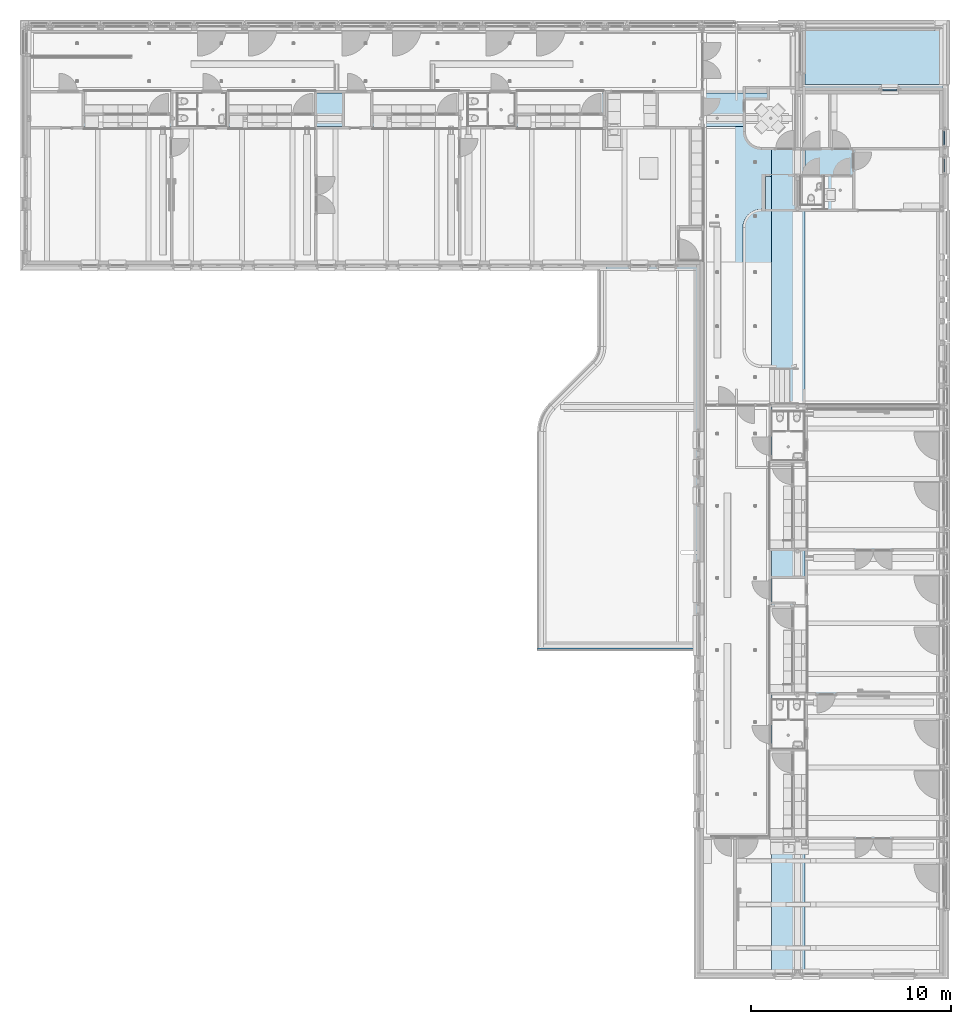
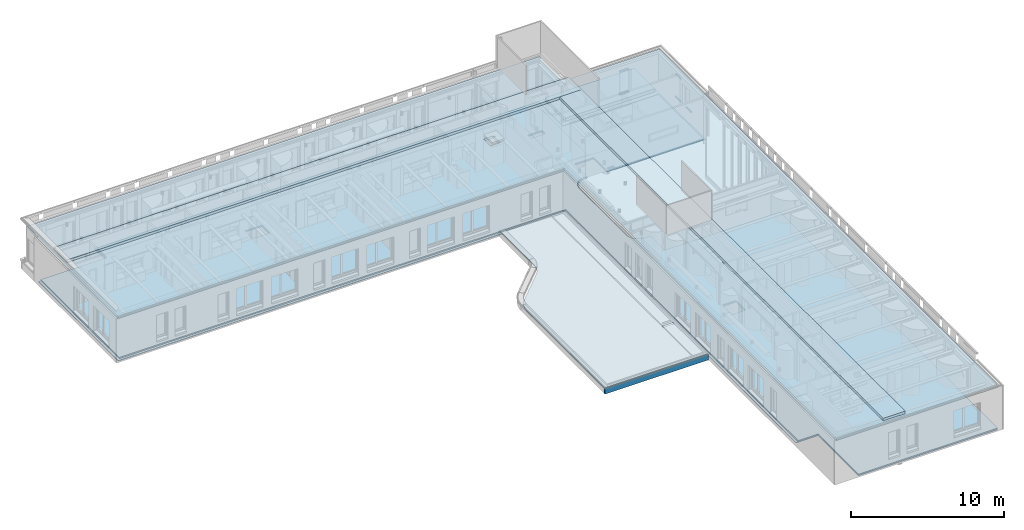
# One storey, part 31 of 128: 6 slabs, 5 members, 1 wall, 13 openings, 6 elements without a shape of their own.
"""IFC2X3 building model written with IfcOpenShell, lengths in millimetres."""

import ifcopenshell
import ifcopenshell.guid

model = None  # the IFC model being written
_history = None  # IfcOwnerHistory: only IFC2X3 demands one
_inside = {}  # id of a spatial element -> (the spatial element, [elements in it])
_under = {}  # id of a project, library or spatial element -> (it, [spatial elements below it])
_declared = {}  # id of a project -> (the project, [libraries it declares])
_typed = {}  # id of a type object -> (the type object, [elements of that type])
_made_of = {}  # id of a material, layer set ... -> (it, [elements and type objects made of it])


def new_model(schema):
    """Start an empty IFC model of exactly this schema.

    Asked for "IFC4X3", IfcOpenShell would pick the latest addendum, in which some entities
    have other attributes; the version numbers below select the first issue.
    IFC2X3 requires an IfcOwnerHistory on every rooted entity: one is made here for all.
    """
    global model, _history
    if schema == "IFC4X3":
        model = ifcopenshell.file(schema_version=(4, 3, 0, 0))
    else:
        model = ifcopenshell.file(schema=schema)
    _inside.clear()
    _under.clear()
    _declared.clear()
    _typed.clear()
    _made_of.clear()
    _history = None
    if model.schema == "IFC2X3":
        org = make("IfcOrganization", Name="unknown")
        user = make(
            "IfcPersonAndOrganization",
            ThePerson=make("IfcPerson", FamilyName="unknown"),
            TheOrganization=org,
        )
        app = make(
            "IfcApplication",
            ApplicationDeveloper=org,
            Version="unknown",
            ApplicationFullName="unknown",
            ApplicationIdentifier="unknown",
        )
        _history = make(
            "IfcOwnerHistory",
            OwningUser=user,
            OwningApplication=app,
            ChangeAction="ADDED",
            CreationDate=0,
        )
    return model


def make(cls, **values):
    """One entity of the class cls with the attributes given. An attribute that is None is left unset."""
    return model.create_entity(
        cls, **{name: value for name, value in values.items() if value is not None}
    )


def entity(cls, *values):
    """Any entity or typed value of the class cls, its attributes in the order of the schema. None: left unset."""
    e = model.create_entity(cls)
    for i, value in enumerate(values):
        if value is not None:
            e[i] = value
    return e


def rooted(cls, **values):
    """An entity with a GlobalId (a new one), such as an element, a storey or a relation."""
    return make(cls, GlobalId=ifcopenshell.guid.new(), OwnerHistory=_history, **values)


def si_unit(unit_type, name, prefix=None):
    """IfcSIUnit, for example si_unit("LENGTHUNIT", "METRE", prefix="MILLI")."""
    return make("IfcSIUnit", UnitType=unit_type, Prefix=prefix, Name=name)


def converted_unit(unit_type, name, factor, base, dimensions=None, offset=None):
    """IfcConversionBasedUnit, such as the inch: factor (a typed value) times the base unit."""
    return make(
        "IfcConversionBasedUnit"
        if offset is None
        else "IfcConversionBasedUnitWithOffset",
        ConversionOffset=offset,
        Dimensions=None
        if dimensions is None
        else entity("IfcDimensionalExponents", *dimensions),
        UnitType=unit_type,
        Name=name,
        ConversionFactor=make(
            "IfcMeasureWithUnit", ValueComponent=factor, UnitComponent=base
        ),
    )


def derived_unit(unit_type, elements):
    """IfcDerivedUnit: a product of units, each with its exponent."""
    return make(
        "IfcDerivedUnit",
        Elements=[
            make("IfcDerivedUnitElement", Unit=unit, Exponent=power)
            for unit, power in elements
        ],
        UnitType=unit_type,
    )


def assignment(units):
    """IfcUnitAssignment: the units of a project."""
    return None if units is None else make("IfcUnitAssignment", Units=units)


def point(xyz):
    """IfcCartesianPoint."""
    return None if xyz is None else make("IfcCartesianPoint", Coordinates=xyz)


def direction(xyz):
    """IfcDirection."""
    return None if xyz is None else make("IfcDirection", DirectionRatios=xyz)


def frame(location, z_axis=None, x_axis=None):
    """IfcAxis2Placement3D, a coordinate frame: its origin and axes. An axis left out is left unset."""
    return make(
        "IfcAxis2Placement3D",
        Location=point(location),
        Axis=direction(z_axis),
        RefDirection=direction(x_axis),
    )


def frame_2d(location, x_axis=None):
    """IfcAxis2Placement2D, a coordinate frame in the plane: its origin and x axis."""
    return make(
        "IfcAxis2Placement2D", Location=point(location), RefDirection=direction(x_axis)
    )


def origin():
    """The frame at (0, 0, 0) with its axes left unset."""
    return frame((0.0, 0.0, 0.0))


def origin_2d_with_axis():
    """The frame at (0, 0) in the plane with the x axis (1, 0) written out."""
    return frame_2d((0.0, 0.0), x_axis=(1.0, 0.0))


def place(relative_to, where):
    """IfcLocalPlacement: puts the frame where relative to a parent placement (None: the world)."""
    return make(
        "IfcLocalPlacement", PlacementRelTo=relative_to, RelativePlacement=where
    )


def context(
    kind, dimensions, precision=None, world=None, true_north=None, identifier=None
):
    """IfcGeometricRepresentationContext, for example the 3D "Model" context."""
    return make(
        "IfcGeometricRepresentationContext",
        ContextIdentifier=identifier,
        ContextType=kind,
        CoordinateSpaceDimension=dimensions,
        Precision=precision,
        WorldCoordinateSystem=world,
        TrueNorth=true_north,
    )


def subcontext(parent, identifier, kind, view, scale=None):
    """IfcGeometricRepresentationSubContext, for example "Body" below "Model"."""
    return make(
        "IfcGeometricRepresentationSubContext",
        ContextIdentifier=identifier,
        ContextType=kind,
        ParentContext=parent,
        TargetScale=scale,
        TargetView=view,
    )


def project(units=None, contexts=None):
    """IfcProject with its units and contexts."""
    return rooted(
        "IfcProject",
        Name="project",
        RepresentationContexts=contexts,
        UnitsInContext=assignment(units),
    )


def spatial(cls, under=None, at=None, **own):
    """A site, building, storey or space (cls), placed at a placement, below another one or the project."""
    s = rooted(cls, ObjectPlacement=at, **own)
    if under is not None:
        _under.setdefault(under.id(), (under, []))[1].append(s)
    return s


def polyline(points):
    """IfcPolyline through the points."""
    return make("IfcPolyline", Points=[point(p) for p in points])


def circle_curve(where, radius):
    """IfcCircle in the frame where."""
    return make("IfcCircle", Position=where, Radius=radius)


def parameter(value):
    """IfcParameterValue: where a trimmed curve begins or ends, as a parameter of its basis curve."""
    return model.create_entity("IfcParameterValue", value)


def trimmed(basis, trim1, trim2, sense, master):
    """IfcTrimmedCurve: the piece of a basis curve between two trims."""
    return make(
        "IfcTrimmedCurve",
        BasisCurve=basis,
        Trim1=trim1,
        Trim2=trim2,
        SenseAgreement=sense,
        MasterRepresentation=master,
    )


def segment(curve, same_sense, transition):
    """IfcCompositeCurveSegment."""
    return make(
        "IfcCompositeCurveSegment",
        Transition=transition,
        SameSense=same_sense,
        ParentCurve=curve,
    )


def composite_curve(segments, self_intersect=None):
    """IfcCompositeCurve: segments joined end to end."""
    return make("IfcCompositeCurve", Segments=segments, SelfIntersect=self_intersect)


def profile(cls, at=None, kind="AREA", **sizes):
    """A parametric profile (cls). Its sizes go by their IFC names, for example OverallWidth=200.0."""
    return make(cls, ProfileType=kind, Position=at, **sizes)


def rectangle(**sizes):
    """IfcRectangleProfileDef."""
    return profile("IfcRectangleProfileDef", **sizes)


def outline(outer, holes=None, kind="AREA"):
    """IfcArbitraryClosedProfileDef: a profile drawn as a closed curve; with holes, ...WithVoids."""
    if holes is None:
        return make("IfcArbitraryClosedProfileDef", ProfileType=kind, OuterCurve=outer)
    return make(
        "IfcArbitraryProfileDefWithVoids",
        ProfileType=kind,
        OuterCurve=outer,
        InnerCurves=holes,
    )


def extrude(swept, where, along, depth):
    """IfcExtrudedAreaSolid: the profile swept, set in the frame where, extruded along a direction by depth."""
    return make(
        "IfcExtrudedAreaSolid",
        SweptArea=swept,
        Position=where,
        ExtrudedDirection=direction(along),
        Depth=depth,
    )


def shape(context_of_items, identifier, shape_type, items):
    """IfcShapeRepresentation: the items that make up one representation, for example the "Body"."""
    return make(
        "IfcShapeRepresentation",
        ContextOfItems=context_of_items,
        RepresentationIdentifier=identifier,
        RepresentationType=shape_type,
        Items=items,
    )


def source(mapping_origin, context_of_items, identifier, shape_type, items):
    """IfcRepresentationMap: a shape defined once, which mapped items show again and again."""
    return make(
        "IfcRepresentationMap",
        MappingOrigin=mapping_origin,
        MappedRepresentation=shape(context_of_items, identifier, shape_type, items),
    )


def transform(
    local_origin,
    x_axis=None,
    y_axis=None,
    z_axis=None,
    scale=None,
    scale2=None,
    scale3=None,
    uniform=True,
):
    """IfcCartesianTransformationOperator3D, or its non-uniform kind. x_axis, y_axis, z_axis: its Axis1, 2, 3."""
    if uniform:
        return make(
            "IfcCartesianTransformationOperator3D",
            Axis1=direction(x_axis),
            Axis2=direction(y_axis),
            LocalOrigin=point(local_origin),
            Scale=scale,
            Axis3=direction(z_axis),
        )
    return make(
        "IfcCartesianTransformationOperator3DnonUniform",
        Axis1=direction(x_axis),
        Axis2=direction(y_axis),
        LocalOrigin=point(local_origin),
        Scale=scale,
        Axis3=direction(z_axis),
        Scale2=scale2,
        Scale3=scale3,
    )


def mapped(mapping_source, mapping_target):
    """IfcMappedItem: shows the shape of a source again, moved by a transform."""
    return make(
        "IfcMappedItem", MappingSource=mapping_source, MappingTarget=mapping_target
    )


def material(Name=None, Category=None):
    """IfcMaterial."""
    return make("IfcMaterial", Name=Name, Category=Category)


def layer(
    of_material, thickness, ventilated=None, Name=None, Category=None, Priority=None
):
    """IfcMaterialLayer: one layer of a wall or slab, of a material (None: an air gap)."""
    return make(
        "IfcMaterialLayer",
        Material=of_material,
        LayerThickness=thickness,
        IsVentilated=ventilated,
        Name=Name,
        Category=Category,
        Priority=Priority,
    )


def layer_set(layers, Name=None):
    """IfcMaterialLayerSet."""
    return make("IfcMaterialLayerSet", MaterialLayers=layers, LayerSetName=Name)


def layer_usage(for_layer_set, set_direction, sense, offset, extent=None):
    """IfcMaterialLayerSetUsage: how a layer set lies in its element."""
    return make(
        "IfcMaterialLayerSetUsage",
        ForLayerSet=for_layer_set,
        LayerSetDirection=set_direction,
        DirectionSense=sense,
        OffsetFromReferenceLine=offset,
        ReferenceExtent=extent,
    )


def made_of(thing, what):
    """Note that an element or type object is made of a material, layer set ...; save() writes the relation."""
    if what is not None:
        _made_of.setdefault(what.id(), (what, []))[1].append(thing)
    return thing


def type_object(cls, material=None, **own):
    """A type object (cls), such as IfcWallType, which elements share."""
    return made_of(rooted(cls, **own), material)


def type_shapes(of_type, sources):
    """Give a type object the sources (RepresentationMaps) that its elements show as mapped items."""
    of_type.RepresentationMaps = sources


def element(
    cls,
    number,
    at=None,
    inside=None,
    cuts=None,
    type_object=None,
    material=None,
    context=None,
    identifier="Body",
    shape_type=None,
    held_by="IfcProductDefinitionShape",
    body=None,
    shapes=None,
    **own,
):
    """One element of the class cls, such as IfcWall. Its Tag is "e" and its number.

    at: its placement. inside: the storey or other place that contains it. cuts: it is an
    opening in that element (IfcRelVoidsElement). A single representation is given by context,
    identifier, shape_type and body (its items); several are given by shapes. held_by: the class
    of the entity that holds the representations. save() writes the other relations.
    """
    e = rooted(cls, Tag="e%d" % number, ObjectPlacement=at, **own)
    if body is not None:
        shapes = [shape(context, identifier, shape_type, body)]
    if shapes is not None:
        e.Representation = make(held_by, Representations=shapes)
    if inside is not None:
        _inside.setdefault(inside.id(), (inside, []))[1].append(e)
    if cuts is not None:
        rooted(
            "IfcRelVoidsElement", RelatingBuildingElement=cuts, RelatedOpeningElement=e
        )
    if type_object is not None:
        _typed.setdefault(type_object.id(), (type_object, []))[1].append(e)
    return made_of(e, material)


def aggregate(whole, parts):
    """IfcRelAggregates: a whole, such as a stair, and the parts it consists of."""
    return rooted("IfcRelAggregates", RelatingObject=whole, RelatedObjects=parts)


def save(model, path):
    """Write the relations noted so far, then the file.

    IfcRelAggregates (storeys below a building ...), IfcRelContainedInSpatialStructure (elements
    in a storey), IfcRelDefinesByType, IfcRelAssociatesMaterial and IfcRelDeclares: one each for
    every whole, place, type object, material and project.
    """
    for whole, parts in _under.values():
        aggregate(whole, parts)
    for where, things in _inside.values():
        rooted(
            "IfcRelContainedInSpatialStructure",
            RelatedElements=things,
            RelatingStructure=where,
        )
    for kind, things in _typed.values():
        rooted("IfcRelDefinesByType", RelatedObjects=things, RelatingType=kind)
    for what, things in _made_of.values():
        rooted("IfcRelAssociatesMaterial", RelatedObjects=things, RelatingMaterial=what)
    for by, libraries in _declared.values():
        rooted("IfcRelDeclares", RelatingContext=by, RelatedDefinitions=libraries)
    model.write(path)


model = new_model("IFC2X3")

# Units and contexts
model_context = context("Model", 3, precision=0.01, world=origin(), true_north=direction((6.123031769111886e-17, 1.0)))
body_context = subcontext(model_context, "Body", "Model", "MODEL_VIEW")
ifc_project = project(units=[si_unit("LENGTHUNIT", "METRE", prefix="MILLI"), si_unit("AREAUNIT", "SQUARE_METRE"), si_unit("VOLUMEUNIT", "CUBIC_METRE"), converted_unit("PLANEANGLEUNIT", "DEGREE", entity("IfcRatioMeasure", 0.017453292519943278), si_unit("PLANEANGLEUNIT", "RADIAN"), dimensions=[0, 0, 0, 0, 0, 0, 0]), si_unit("MASSUNIT", "GRAM", prefix="KILO"), derived_unit("MASSDENSITYUNIT", [(si_unit("MASSUNIT", "GRAM", prefix="KILO"), 1), (si_unit("LENGTHUNIT", "METRE"), -3)]), derived_unit("IONCONCENTRATIONUNIT", [(si_unit("MASSUNIT", "GRAM", prefix="KILO"), 1), (si_unit("LENGTHUNIT", "METRE"), -3)]), derived_unit("MOMENTOFINERTIAUNIT", [(si_unit("LENGTHUNIT", "METRE"), 4)]), si_unit("TIMEUNIT", "SECOND"), si_unit("FREQUENCYUNIT", "HERTZ"), si_unit("THERMODYNAMICTEMPERATUREUNIT", "DEGREE_CELSIUS"), derived_unit("THERMALTRANSMITTANCEUNIT", [(si_unit("MASSUNIT", "GRAM", prefix="KILO"), 1), (si_unit("THERMODYNAMICTEMPERATUREUNIT", "KELVIN"), -1), (si_unit("TIMEUNIT", "SECOND"), -3)]), derived_unit("THERMALCONDUCTANCEUNIT", [(si_unit("MASSUNIT", "GRAM", prefix="KILO"), 1), (si_unit("THERMODYNAMICTEMPERATUREUNIT", "KELVIN"), -1), (si_unit("TIMEUNIT", "SECOND"), -3), (si_unit("LENGTHUNIT", "METRE"), 1)]), derived_unit("VOLUMETRICFLOWRATEUNIT", [(si_unit("LENGTHUNIT", "METRE"), 3), (si_unit("TIMEUNIT", "SECOND"), -1)]), derived_unit("MASSFLOWRATEUNIT", [(si_unit("MASSUNIT", "GRAM", prefix="KILO"), 1), (si_unit("TIMEUNIT", "SECOND"), -1)]), derived_unit("ROTATIONALFREQUENCYUNIT", [(si_unit("TIMEUNIT", "SECOND"), -1)]), si_unit("ELECTRICCURRENTUNIT", "AMPERE"), si_unit("ELECTRICVOLTAGEUNIT", "VOLT"), si_unit("POWERUNIT", "WATT"), si_unit("FORCEUNIT", "NEWTON", prefix="KILO"), si_unit("ILLUMINANCEUNIT", "LUX"), si_unit("LUMINOUSFLUXUNIT", "LUMEN"), si_unit("LUMINOUSINTENSITYUNIT", "CANDELA"), derived_unit("USERDEFINED", [(si_unit("MASSUNIT", "GRAM", prefix="KILO"), -1), (si_unit("LENGTHUNIT", "METRE"), -2), (si_unit("TIMEUNIT", "SECOND"), 3), (si_unit("LUMINOUSFLUXUNIT", "LUMEN"), 1)]), derived_unit("USERDEFINED", [(si_unit("MASSUNIT", "GRAM", prefix="KILO"), 1), (si_unit("TIMEUNIT", "SECOND"), -3), (si_unit("LENGTHUNIT", "METRE"), 3), (si_unit("ELECTRICCURRENTUNIT", "AMPERE"), -2)]), derived_unit("SOUNDPOWERUNIT", [(si_unit("MASSUNIT", "GRAM", prefix="KILO"), 1), (si_unit("TIMEUNIT", "SECOND"), -3), (si_unit("LENGTHUNIT", "METRE"), 2)]), derived_unit("SOUNDPRESSUREUNIT", [(si_unit("MASSUNIT", "GRAM", prefix="KILO"), 1), (si_unit("LENGTHUNIT", "METRE"), -1), (si_unit("TIMEUNIT", "SECOND"), -2)]), derived_unit("LINEARVELOCITYUNIT", [(si_unit("LENGTHUNIT", "METRE"), 1), (si_unit("TIMEUNIT", "SECOND"), -1)]), si_unit("PRESSUREUNIT", "PASCAL"), derived_unit("USERDEFINED", [(si_unit("MASSUNIT", "GRAM", prefix="KILO"), 1), (si_unit("LENGTHUNIT", "METRE"), -2), (si_unit("TIMEUNIT", "SECOND"), -2)]), derived_unit("LINEARFORCEUNIT", [(si_unit("MASSUNIT", "GRAM", prefix="KILO"), 1), (si_unit("TIMEUNIT", "SECOND"), -2)]), derived_unit("PLANARFORCEUNIT", [(si_unit("MASSUNIT", "GRAM", prefix="KILO"), 1), (si_unit("LENGTHUNIT", "METRE"), -1), (si_unit("TIMEUNIT", "SECOND"), -2)]), derived_unit("SPECIFICHEATCAPACITYUNIT", [(si_unit("THERMODYNAMICTEMPERATUREUNIT", "KELVIN"), -1), (si_unit("LENGTHUNIT", "METRE"), 2), (si_unit("TIMEUNIT", "SECOND"), -2)]), derived_unit("HEATINGVALUEUNIT", [(si_unit("LENGTHUNIT", "METRE"), 2), (si_unit("TIMEUNIT", "SECOND"), -2)]), derived_unit("VAPORPERMEABILITYUNIT", [(si_unit("LENGTHUNIT", "METRE"), -1), (si_unit("TIMEUNIT", "SECOND"), 1)]), derived_unit("DYNAMICVISCOSITYUNIT", [(si_unit("MASSUNIT", "GRAM", prefix="KILO"), 1), (si_unit("TIMEUNIT", "SECOND"), -1), (si_unit("LENGTHUNIT", "METRE"), -1)]), derived_unit("THERMALEXPANSIONCOEFFICIENTUNIT", [(si_unit("THERMODYNAMICTEMPERATUREUNIT", "KELVIN"), -1)]), derived_unit("MODULUSOFELASTICITYUNIT", [(si_unit("MASSUNIT", "GRAM", prefix="KILO"), 1), (si_unit("LENGTHUNIT", "METRE"), -1), (si_unit("TIMEUNIT", "SECOND"), -2)]), derived_unit("ISOTHERMALMOISTURECAPACITYUNIT", [(si_unit("LENGTHUNIT", "METRE"), 3), (si_unit("MASSUNIT", "GRAM", prefix="KILO"), -1)]), derived_unit("MOISTUREDIFFUSIVITYUNIT", [(si_unit("TIMEUNIT", "SECOND"), -1), (si_unit("LENGTHUNIT", "METRE"), 2)])], contexts=[model_context])

# Site, building, storey
site_placement = place(None, frame((0.0, 300.0, 0.0)))
site = spatial("IfcSite", under=ifc_project, at=site_placement, Name="<Kadastrale nummers>", CompositionType="ELEMENT")
building_placement = place(site_placement, origin())
building = spatial("IfcBuilding", under=site, at=building_placement, CompositionType="ELEMENT")
storey_placement = place(building_placement, frame((0.0, 0.0, 3560.0000331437)))
storey = spatial("IfcBuildingStorey", under=building, at=storey_placement, Name="01 eerste verdieping", CompositionType="ELEMENT", Elevation=3560.0000331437)

# Curtain wall, member
curtain_wall_type = type_object("IfcCurtainWallType", Name="Curtain Wall:K_31", PredefinedType="NOTDEFINED")
curtain_wall_1_placement = place(storey_placement, frame((0.0, 0.0, -3560.0000331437)))
curtain_wall_1 = element("IfcCurtainWall", 1, at=curtain_wall_1_placement, inside=storey, type_object=curtain_wall_type, Name="Curtain Wall:K_31", ObjectType="Curtain Wall:K_31")
ifc_material_1 = material(Name="ISR_Kunststof_RAL7006")
member_type_1 = type_object("IfcMemberType", Name="Rectangular Mullion:100x83 Gealan Kubus", PredefinedType="MULLION", material=ifc_material_1)
shared_shape_1 = source(origin(), body_context, "Body", "SweptSolid", [
    extrude(rectangle(XDim=83.00000000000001, YDim=100.0, at=origin_2d_with_axis()), frame((-50.0, 41.50000000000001, -680.0), z_axis=(0.0, 0.0, 1.0), x_axis=(0.0, -1.0, 0.0)), (0.0, 0.0, 1.0), 679.9999999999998),
])
type_shapes(member_type_1, [shared_shape_1])
member_1_placement = place(curtain_wall_1_placement, frame((45670.0, 46693.0, 6390.00003501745), z_axis=(-1.0, 0.0, 0.0), x_axis=(0.0, 0.0, 1.0)))
member_1 = element("IfcMember", 2, at=member_1_placement, type_object=member_type_1, material=ifc_material_1, Name="Rectangular Mullion:100x83 Gealan Kubus", ObjectType="Rectangular Mullion:100x83 Gealan Kubus", context=body_context, shape_type="MappedRepresentation", body=[
    mapped(shared_shape_1, transform((0.0, 0.0, 0.0), scale=1.0)),
])

curtain_wall_2_placement = place(storey_placement, frame((0.0, 0.0, -3560.0000331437)))
curtain_wall_2 = element("IfcCurtainWall", 3, at=curtain_wall_2_placement, inside=storey, type_object=curtain_wall_type, Name="Curtain Wall:K_31", ObjectType="Curtain Wall:K_31")
member_2_placement = place(curtain_wall_2_placement, frame((48668.0, 44672.12500266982, 6390.00003501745), z_axis=(0.0, 1.0, 0.0), x_axis=(0.0, 0.0, 1.0)))
member_2 = element("IfcMember", 4, at=member_2_placement, type_object=member_type_1, material=ifc_material_1, Name="Rectangular Mullion:100x83 Gealan Kubus", ObjectType="Rectangular Mullion:100x83 Gealan Kubus", context=body_context, shape_type="MappedRepresentation", body=[
    mapped(shared_shape_1, transform((0.0, 0.0, 0.0), scale=1.0)),
])

# Member
member_type_2 = type_object("IfcMemberType", Name="Rectangular Mullion:120x83 Gealan Kubus", PredefinedType="MULLION", material=ifc_material_1)
shared_shape_2 = source(origin(), body_context, "Body", "SweptSolid", [
    extrude(rectangle(XDim=83.00000000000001, YDim=120.0, at=origin_2d_with_axis()), frame((-60.0, 41.50000000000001, -680.0), z_axis=(0.0, 0.0, 1.0), x_axis=(0.0, -1.0, 0.0)), (0.0, 0.0, 1.0), 679.9999999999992),
])
type_shapes(member_type_2, [shared_shape_2])
member_3_placement = place(curtain_wall_1_placement, frame((46350.0, 46693.0, 4460.000035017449), z_axis=(1.0, 0.0, 0.0), x_axis=(0.0, 0.0, -1.0)))
member_3 = element("IfcMember", 5, at=member_3_placement, type_object=member_type_2, material=ifc_material_1, Name="Rectangular Mullion:120x83 Gealan Kubus", ObjectType="Rectangular Mullion:120x83 Gealan Kubus", context=body_context, shape_type="MappedRepresentation", body=[
    mapped(shared_shape_2, transform((0.0, 0.0, 0.0), scale=1.0)),
])

aggregate(curtain_wall_1, [member_1, member_3])

# Curtain wall, member
curtain_wall_3_placement = place(storey_placement, frame((0.0, 0.0, -3560.0000331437)))
curtain_wall_3 = element("IfcCurtainWall", 6, at=curtain_wall_3_placement, inside=storey, type_object=curtain_wall_type, Name="Curtain Wall:K_31", ObjectType="Curtain Wall:K_31")
member_4_placement = place(curtain_wall_3_placement, frame((48668.0, 42612.12500266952, 4460.000035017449), z_axis=(0.0, -1.0, 0.0), x_axis=(0.0, 0.0, -1.0)))
member_4 = element("IfcMember", 7, at=member_4_placement, type_object=member_type_2, material=ifc_material_1, Name="Rectangular Mullion:120x83 Gealan Kubus", ObjectType="Rectangular Mullion:120x83 Gealan Kubus", context=body_context, shape_type="MappedRepresentation", body=[
    mapped(shared_shape_2, transform((0.0, 0.0, 0.0), scale=1.0)),
])
aggregate(curtain_wall_3, [member_4])

# Member
member_5_placement = place(curtain_wall_2_placement, frame((48668.0, 43992.12500266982, 4460.000035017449), z_axis=(0.0, -1.0, 0.0), x_axis=(0.0, 0.0, -1.0)))
member_5 = element("IfcMember", 8, at=member_5_placement, type_object=member_type_2, material=ifc_material_1, Name="Rectangular Mullion:120x83 Gealan Kubus", ObjectType="Rectangular Mullion:120x83 Gealan Kubus", context=body_context, shape_type="MappedRepresentation", body=[
    mapped(shared_shape_2, transform((0.0, 0.0, 0.0), scale=1.0)),
])

aggregate(curtain_wall_2, [member_2, member_5])

# Slab, openings
ifc_material_2 = material(Name="ISR_Beton ihwg")
ifc_layer_1 = layer(ifc_material_2, 60.0)
ifc_layer_set_1 = layer_set([ifc_layer_1], Name="Floor:23_Gewapende Druklaag")
ifc_layer_usage_1 = layer_usage(ifc_layer_set_1, "AXIS3", "POSITIVE", 0.0)
slab_type_1 = type_object("IfcSlabType", Name="Floor:23_Gewapende Druklaag", PredefinedType="FLOOR", material=ifc_layer_set_1)
slab_1_placement = place(storey_placement, frame((2925.0, 2625.0, -60.0)))
slab_1 = element("IfcSlab", 9, at=slab_1_placement, inside=storey, type_object=slab_type_1, material=ifc_layer_usage_1, Name="Floor:23_Gewapende Druklaag", ObjectType="Floor:23_Gewapende Druklaag", PredefinedType="FLOOR", context=body_context, shape_type="SweptSolid", body=[
    extrude(outline(composite_curve([segment(polyline([(22875.0, 11775.0), (22875.0, 22180.0)]), True, "CONTINUOUS"), segment(polyline([(22875.0, 22180.0), (17835.0, 22180.0)]), True, "CONTINUOUS"), segment(polyline([(17835.0, 22180.0), (17835.0, 23625.0)]), True, "CONTINUOUS"), segment(polyline([(17835.0, 23625.0), (-22875.0, 23625.0)]), True, "CONTINUOUS"), segment(polyline([(-22875.0, 23625.0), (-22875.0, 14444.999474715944)]), True, "CONTINUOUS"), segment(polyline([(-22875.0, 14444.999474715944), (-15450.0, 14444.999474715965)]), True, "CONTINUOUS"), segment(polyline([(-15450.0, 14444.999474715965), (-15450.0, 16167.125002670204)]), True, "CONTINUOUS"), segment(polyline([(-15450.0, 16167.125002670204), (-14013.999785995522, 16167.125002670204)]), True, "CONTINUOUS"), segment(polyline([(-14013.999785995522, 16167.125002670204), (-14013.999785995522, 14524.999474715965)]), True, "CONTINUOUS"), segment(polyline([(-14013.999785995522, 14524.999474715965), (-13900.0, 14524.999474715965)]), True, "CONTINUOUS"), segment(trimmed(circle_curve(frame_2d((-13900.0, 13599.999474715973), x_axis=(-1.0, 0.0)), 925.0000000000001), [parameter(179.99999999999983)], [parameter(269.9999999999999)], True, "PARAMETER"), False, "CONTINUOUS"), segment(polyline([(-12975.0, 13599.999474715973), (-12975.0, 7545.0)]), True, "CONTINUOUS"), segment(trimmed(circle_curve(frame_2d((-13800.0, 7545.0), x_axis=(-1.0, 0.0)), 825.0), [parameter(89.99999999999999)], [parameter(180.00000000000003)], True, "PARAMETER"), False, "CONTINUOUS"), segment(polyline([(-13800.0, 6720.0), (-14200.0, 6720.0)]), True, "CONTINUOUS"), segment(polyline([(-14200.0, 6720.0), (-14200.0, 4760.0)]), True, "CONTINUOUS"), segment(polyline([(-14200.0, 4760.0), (-22875.0, 4760.0)]), True, "CONTINUOUS"), segment(polyline([(-22875.0, 4760.0), (-22875.0, -23625.0)]), True, "CONTINUOUS"), segment(polyline([(-22875.0, -23625.0), (-12400.0, -23625.0)]), True, "CONTINUOUS"), segment(polyline([(-12400.0, -23625.0), (-12400.0, -18360.001376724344)]), True, "CONTINUOUS"), segment(polyline([(-12400.0, -18360.001376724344), (-10725.0, -18360.001376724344)]), True, "CONTINUOUS"), segment(polyline([(-10725.0, -18360.001376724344), (-10725.0, -6865.001376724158)]), True, "CONTINUOUS"), segment(polyline([(-10725.0, -6865.001376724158), (-9375.0, -6865.001376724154)]), True, "CONTINUOUS"), segment(polyline([(-9375.0, -6865.001376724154), (-9375.0, -7195.001376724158)]), True, "CONTINUOUS"), segment(polyline([(-9375.0, -7195.001376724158), (-3034.0369167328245, -7195.001376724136)]), True, "CONTINUOUS"), segment(polyline([(-3034.0369167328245, -7195.001376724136), (-3034.0369167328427, 3419.262481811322)]), True, "CONTINUOUS"), segment(trimmed(circle_curve(frame_2d((-4600.036916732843, 3419.262481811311), x_axis=(-1.0, 0.0)), 1566.0000000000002), [parameter(179.99999999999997)], [parameter(225.00000000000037)], True, "PARAMETER"), True, "CONTINUOUS"), segment(polyline([(-3492.707697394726, 4526.5917011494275), (-5614.028040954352, 6647.912044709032)]), True, "CONTINUOUS"), segment(trimmed(circle_curve(frame_2d((-4600.03691673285, 7661.903168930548), x_axis=(-1.0, 0.0)), 1434.0), [parameter(0.0)], [parameter(45.0000000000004)], True, "PARAMETER"), False, "CONTINUOUS"), segment(polyline([(-6034.03691673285, 7661.903168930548), (-6034.03691673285, 11775.0)]), True, "CONTINUOUS"), segment(polyline([(-6034.03691673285, 11775.0), (22875.0, 11775.0)]), True, "CONTINUOUS")], self_intersect=False)), frame((22875.0, 23625.0, 60.0), z_axis=(0.0, 0.0, -1.0), x_axis=(-1.0, 0.0, 0.0)), (0.0, 0.0, 1.0), 59.99999999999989),
])
opening_1_placement = place(slab_1_placement, origin())
element("IfcOpeningElement", 10, at=opening_1_placement, cuts=slab_1, Name="Floor:23_Gewapende Druklaag", ObjectType="Opening", context=body_context, shape_type="SweptSolid", body=[
    extrude(rectangle(XDim=1025.0000000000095, YDim=1260.0000000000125, at=frame_2d((0.0, 2.1600499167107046e-12), x_axis=(1.0, 0.0))), frame((15110.0, 43437.50000000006, 0.0), z_axis=(0.0, 0.0, 1.0), x_axis=(0.0, 1.0, 0.0)), (0.0, 0.0, 1.0), 59.99999999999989),
])
opening_2_placement = place(slab_1_placement, origin())
element("IfcOpeningElement", 11, at=opening_2_placement, cuts=slab_1, Name="Floor:23_Gewapende Druklaag", ObjectType="Opening", context=body_context, shape_type="SweptSolid", body=[
    extrude(rectangle(XDim=1260.001376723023, YDim=1035.0066017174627, at=origin_2d_with_axis()), frame((37707.49669914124, 20454.997934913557, 0.0), z_axis=(0.0, 0.0, 1.0), x_axis=(0.0, 1.0, 0.0)), (0.0, 0.0, 1.0), 59.99999999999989),
])
opening_3_placement = place(slab_1_placement, origin())
element("IfcOpeningElement", 12, at=opening_3_placement, cuts=slab_1, Name="Floor:23_Gewapende Druklaag", ObjectType="Opening", context=body_context, shape_type="SweptSolid", body=[
    extrude(rectangle(XDim=415.00000000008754, YDim=1075.0000000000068, at=frame_2d((-4.334310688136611e-12, 4.320099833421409e-12), x_axis=(1.0, 0.0))), frame((36412.500000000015, 43942.49999999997, 0.0), z_axis=(0.0, 0.0, 1.0), x_axis=(0.0, 1.0, 0.0)), (0.0, 0.0, 1.0), 59.99999999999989),
])
opening_4_placement = place(slab_1_placement, origin())
element("IfcOpeningElement", 13, at=opening_4_placement, cuts=slab_1, Name="Floor:23_Gewapende Druklaag", ObjectType="Opening", context=body_context, shape_type="SweptSolid", body=[
    extrude(outline(polyline([(-210.0, -9.999649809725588), (-210.0, -95.00017509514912), (315.0, -95.00017509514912), (315.0, 104.99982490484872), (-105.0, 104.99982490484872), (-105.0, -9.999649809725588), (-210.0, -9.999649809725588)])), frame((38660.0, 38244.999824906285, 0.0), z_axis=(0.0, 0.0, -1.0), x_axis=(1.0, 0.0, 0.0)), (0.0, 0.0, -1.0), 59.99999999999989),
])
opening_5_placement = place(slab_1_placement, origin())
element("IfcOpeningElement", 14, at=opening_5_placement, cuts=slab_1, Name="Floor:23_Gewapende Druklaag", ObjectType="Opening", context=body_context, shape_type="SweptSolid", body=[
    extrude(rectangle(XDim=844.9999999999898, YDim=150.0000000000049, at=frame_2d((4.348521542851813e-12, -2.1671553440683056e-12), x_axis=(1.0, 0.0))), frame((33072.49999999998, 21015.998623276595, 0.0)), (0.0, 0.0, 1.0), 59.99999999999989),
])

ifc_layer_2 = layer(ifc_material_2, 70.0)
ifc_material_3 = material(Name="ISR_Isolatie")
ifc_layer_3 = layer(ifc_material_3, 20.0)
ifc_layer_set_2 = layer_set([ifc_layer_2, ifc_layer_3], Name="Floor:23_Zwevende dekvloer 90mm")
ifc_layer_usage_2 = layer_usage(ifc_layer_set_2, "AXIS3", "POSITIVE", 0.0)
slab_type_2 = type_object("IfcSlabType", Name="Floor:23_Zwevende dekvloer 90mm", PredefinedType="FLOOR", material=ifc_layer_set_2)
slab_2_placement = place(storey_placement, frame((3100.0, 2625.0, 1.8737491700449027e-06)))
slab_2 = element("IfcSlab", 15, at=slab_2_placement, inside=storey, type_object=slab_type_2, material=ifc_layer_usage_2, Name="Floor:23_Zwevende dekvloer 90mm", ObjectType="Floor:23_Zwevende dekvloer 90mm", PredefinedType="FLOOR", context=body_context, shape_type="SweptSolid", body=[
    extrude(outline(composite_curve([segment(polyline([(22787.499999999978, 12037.500000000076), (22787.499999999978, 22267.500000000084)]), True, "CONTINUOUS"), segment(polyline([(22787.499999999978, 22267.500000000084), (17822.499999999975, 22267.500000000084)]), True, "CONTINUOUS"), segment(polyline([(17822.499999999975, 22267.500000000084), (17822.49999999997, 23537.50000000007)]), True, "CONTINUOUS"), segment(polyline([(17822.49999999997, 23537.50000000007), (-15412.500000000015, 23537.499999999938)]), True, "CONTINUOUS"), segment(polyline([(-15412.500000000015, 23537.499999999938), (-15412.500000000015, 20362.500000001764)]), True, "CONTINUOUS"), segment(polyline([(-15412.500000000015, 20362.500000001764), (-22612.49999999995, 20362.500000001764)]), True, "CONTINUOUS"), segment(polyline([(-22612.49999999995, 20362.500000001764), (-22612.49999999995, 14532.499474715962)]), True, "CONTINUOUS"), segment(polyline([(-22612.49999999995, 14532.499474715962), (-15362.500000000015, 14532.499474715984)]), True, "CONTINUOUS"), segment(polyline([(-15362.500000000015, 14532.499474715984), (-15362.500000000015, 16254.625002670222)]), True, "CONTINUOUS"), segment(polyline([(-15362.500000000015, 16254.625002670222), (-13926.499785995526, 16254.625002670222)]), True, "CONTINUOUS"), segment(polyline([(-13926.499785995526, 16254.625002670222), (-13926.499785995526, 14612.49947471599)]), True, "CONTINUOUS"), segment(polyline([(-13926.499785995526, 14612.49947471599), (-13712.49999999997, 14612.499474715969)]), True, "CONTINUOUS"), segment(trimmed(circle_curve(frame_2d((-13712.500000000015, 13687.499474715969), x_axis=(-1.0, 0.0)), 925.0000000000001), [parameter(179.99999999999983)], [parameter(269.9999999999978)], True, "PARAMETER"), False, "CONTINUOUS"), segment(polyline([(-12787.500000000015, 13687.499474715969), (-12787.500000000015, 7632.4999999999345)]), True, "CONTINUOUS"), segment(trimmed(circle_curve(frame_2d((-13712.500000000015, 7632.499999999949), x_axis=(-1.0, 0.0)), 925.0000000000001), [parameter(90.00000000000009)], [parameter(179.99999999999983)], True, "PARAMETER"), False, "CONTINUOUS"), segment(polyline([(-13712.500000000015, 6707.499999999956), (-14112.499999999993, 6707.499999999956)]), True, "CONTINUOUS"), segment(polyline([(-14112.499999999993, 6707.499999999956), (-14112.499999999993, 4847.499999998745)]), True, "CONTINUOUS"), segment(polyline([(-14112.499999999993, 4847.499999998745), (-22787.499999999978, 4847.499999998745)]), True, "CONTINUOUS"), segment(polyline([(-22787.499999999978, 4847.499999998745), (-22787.49999999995, -23537.500000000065)]), True, "CONTINUOUS"), segment(polyline([(-22787.49999999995, -23537.500000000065), (-12312.499999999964, -23537.500000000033)]), True, "CONTINUOUS"), segment(polyline([(-12312.499999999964, -23537.500000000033), (-12312.499999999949, -18272.50137672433)]), True, "CONTINUOUS"), segment(polyline([(-12312.499999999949, -18272.50137672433), (-10812.499999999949, -18272.50137672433)]), True, "CONTINUOUS"), segment(polyline([(-10812.499999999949, -18272.50137672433), (-10812.499999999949, 12037.500000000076)]), True, "CONTINUOUS"), segment(polyline([(-10812.499999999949, 12037.500000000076), (22787.499999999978, 12037.500000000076)]), True, "CONTINUOUS")], self_intersect=False)), frame((22787.499999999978, 23537.50000000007, 90.0), z_axis=(0.0, 0.0, -1.0), x_axis=(-1.0, 0.0, 0.0)), (0.0, 0.0, 1.0), 90.00000000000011),
])
opening_6_placement = place(slab_2_placement, origin())
element("IfcOpeningElement", 16, at=opening_6_placement, cuts=slab_2, Name="Floor:23_Zwevende dekvloer 90mm", ObjectType="Opening", context=body_context, shape_type="SweptSolid", body=[
    extrude(rectangle(XDim=1025.0000000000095, YDim=1260.0000000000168, at=origin_2d_with_axis()), frame((14935.0, 43437.5000000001, 0.0), z_axis=(0.0, 0.0, 1.0), x_axis=(0.0, 1.0, 0.0)), (0.0, 0.0, 1.0), 90.00000000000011),
])
opening_7_placement = place(slab_2_placement, origin())
element("IfcOpeningElement", 17, at=opening_7_placement, cuts=slab_2, Name="Floor:23_Zwevende dekvloer 90mm", ObjectType="Opening", context=body_context, shape_type="SweptSolid", body=[
    extrude(rectangle(XDim=1260.001376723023, YDim=1035.0066017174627, at=origin_2d_with_axis()), frame((37532.49669914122, 20454.9979349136, 0.0), z_axis=(0.0, 0.0, 1.0), x_axis=(0.0, 1.0, 0.0)), (0.0, 0.0, 1.0), 90.00000000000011),
])
opening_8_placement = place(slab_2_placement, origin())
element("IfcOpeningElement", 18, at=opening_8_placement, cuts=slab_2, Name="Floor:23_Zwevende dekvloer 90mm", ObjectType="Opening", context=body_context, shape_type="SweptSolid", body=[
    extrude(rectangle(XDim=415.00000000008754, YDim=1075.0000000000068, at=frame_2d((-4.334310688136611e-12, 4.320099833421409e-12), x_axis=(1.0, 0.0))), frame((36237.5, 43942.500000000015, 0.0), z_axis=(0.0, 0.0, 1.0), x_axis=(0.0, 1.0, 0.0)), (0.0, 0.0, 1.0), 90.00000000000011),
])
opening_9_placement = place(slab_2_placement, origin())
element("IfcOpeningElement", 19, at=opening_9_placement, cuts=slab_2, Name="Floor:23_Zwevende dekvloer 90mm", ObjectType="Opening", context=body_context, shape_type="SweptSolid", body=[
    extrude(outline(polyline([(-210.0, -9.999649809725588), (-210.0, -95.00017509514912), (315.0, -95.00017509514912), (315.0, 104.99982490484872), (-105.0, 104.99982490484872), (-105.0, -9.999649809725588), (-210.0, -9.999649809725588)])), frame((38485.0, 38244.99982490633, 0.0), z_axis=(0.0, 0.0, -1.0), x_axis=(1.0, 0.0, 0.0)), (0.0, 0.0, -1.0), 90.00000000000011),
])

ifc_material_4 = material(Name="ISR_Kanaalplaatvloer")
ifc_layer_4 = layer(ifc_material_4, 200.0)
ifc_layer_set_3 = layer_set([ifc_layer_4], Name="Floor:23_kanaalplaatvloer_200")
ifc_layer_usage_3 = layer_usage(ifc_layer_set_3, "AXIS3", "POSITIVE", 0.0)
slab_type_3 = type_object("IfcSlabType", Name="Floor:23_kanaalplaatvloer_200", PredefinedType="FLOOR", material=ifc_layer_set_3)
slab_3_placement = place(storey_placement, frame((2925.0, 2625.0, 3330.0)))
slab_3 = element("IfcSlab", 20, at=slab_3_placement, inside=storey, type_object=slab_type_3, material=ifc_layer_usage_3, Name="Floor:23_kanaalplaatvloer_200", ObjectType="Floor:23_kanaalplaatvloer_200", PredefinedType="FLOOR", context=body_context, shape_type="SweptSolid", body=[
    extrude(outline(polyline([(22875.0, 11775.0), (22875.0, 23625.0), (-15675.0, 23625.0), (-15675.0, 20450.0), (-22875.0, 20450.0), (-22875.0, -23625.0), (-10725.0, -23625.0), (-10725.0, 11775.0), (22875.0, 11775.0)])), frame((22875.0, 23625.0, 200.0), z_axis=(0.0, 0.0, -1.0), x_axis=(-1.0, 0.0, 0.0)), (0.0, 0.0, 1.0), 200.0),
])
opening_10_placement = place(slab_3_placement, origin())
element("IfcOpeningElement", 21, at=opening_10_placement, cuts=slab_3, Name="Floor:23_kanaalplaatvloer_200", ObjectType="Opening", context=body_context, shape_type="SweptSolid", body=[
    extrude(rectangle(XDim=1025.0000000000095, YDim=1260.0000000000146, at=frame_2d((0.0, 1.0800249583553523e-12), x_axis=(1.0, 0.0))), frame((15110.0, 43437.5000000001, 0.0), z_axis=(0.0, 0.0, 1.0), x_axis=(0.0, 1.0, 0.0)), (0.0, 0.0, 1.0), 200.0),
])
opening_11_placement = place(slab_3_placement, origin())
element("IfcOpeningElement", 22, at=opening_11_placement, cuts=slab_3, Name="Floor:23_kanaalplaatvloer_200", ObjectType="Opening", context=body_context, shape_type="SweptSolid", body=[
    extrude(rectangle(XDim=1260.001376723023, YDim=1035.0066017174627, at=origin_2d_with_axis()), frame((37707.49669914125, 20454.9979349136, 0.0), z_axis=(0.0, 0.0, 1.0), x_axis=(0.0, 1.0, 0.0)), (0.0, 0.0, 1.0), 200.0),
])
opening_12_placement = place(slab_3_placement, origin())
element("IfcOpeningElement", 23, at=opening_12_placement, cuts=slab_3, Name="Floor:23_kanaalplaatvloer_200", ObjectType="Opening", context=body_context, shape_type="SweptSolid", body=[
    extrude(rectangle(XDim=415.00000000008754, YDim=1075.0000000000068, at=frame_2d((-4.334310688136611e-12, 4.320099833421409e-12), x_axis=(1.0, 0.0))), frame((36412.50000000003, 43942.500000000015, 0.0), z_axis=(0.0, 0.0, 1.0), x_axis=(0.0, 1.0, 0.0)), (0.0, 0.0, 1.0), 200.0),
])
opening_13_placement = place(slab_3_placement, origin())
element("IfcOpeningElement", 24, at=opening_13_placement, cuts=slab_3, Name="Floor:23_kanaalplaatvloer_200", ObjectType="Opening", context=body_context, shape_type="SweptSolid", body=[
    extrude(rectangle(XDim=900.0000000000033, YDim=700.0000000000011, at=frame_2d((0.0, 2.1600499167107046e-12), x_axis=(1.0, 0.0))), frame((31065.0, 40494.9994747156, 200.0), z_axis=(0.0, 0.0, -1.0), x_axis=(0.0, -1.0, 0.0)), (0.0, 0.0, 1.0), 200.0),
])

# Roof, slab
ifc_material_5 = material(Name="ISR_Grind")
ifc_layer_5 = layer(ifc_material_5, 50.0)
ifc_material_6 = material(Name="ISR_Bitumen")
ifc_layer_6 = layer(ifc_material_6, 2.0)
ifc_layer_7 = layer(ifc_material_6, 2.0)
ifc_material_7 = material(Name="ISR_Dak_isolatie")
ifc_layer_8 = layer(ifc_material_7, 200.0)
ifc_layer_set_4 = layer_set([ifc_layer_5, ifc_layer_6, ifc_layer_7, ifc_layer_8], Name="Basic Roof:300_27_dakisolatie+dakleer+grind")
roof_1_placement = place(storey_placement, frame((41775.0, 47000.0, 0.0)))
roof_1 = element("IfcRoof", 25, at=roof_1_placement, inside=storey, material=ifc_layer_set_4, Name="Basic Roof:300_27_dakisolatie+dakleer+grind", ObjectType="Basic Roof:300_27_dakisolatie+dakleer+grind", ShapeType="NOTDEFINED")
slab_type_4 = type_object("IfcSlabType", Name="Basic Roof:300_27_dakisolatie+dakleer+grind", PredefinedType="ROOF")
slab_4_placement = place(roof_1_placement, origin())
slab_4 = element("IfcSlab", 26, at=slab_4_placement, type_object=slab_type_4, material=ifc_layer_set_4, Name="Basic Roof:300_27_dakisolatie+dakleer+grind", ObjectType="Basic Roof:300_27_dakisolatie+dakleer+grind", PredefinedType="ROOF", context=body_context, shape_type="SweptSolid", body=[
    extrude(rectangle(XDim=6725.000000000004, YDim=2699.9999999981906, at=frame_2d((4.320099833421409e-12, 0.0), x_axis=(-1.0, 0.0))), frame((3362.4999999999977, 1350.0, 0.0)), (0.0, 0.0, 1.0), 254.0000000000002),
])
aggregate(roof_1, [slab_4])

ifc_layer_9 = layer(ifc_material_6, 2.0)
ifc_layer_10 = layer(ifc_material_6, 2.0)
ifc_layer_11 = layer(ifc_material_7, 200.0)
ifc_layer_set_5 = layer_set([ifc_layer_9, ifc_layer_10, ifc_layer_11], Name="Basic Roof:300_27_dakisolatie+dakleer")
roof_2_placement = place(storey_placement, frame((3034.0, 44915.0, 3590.0)))
roof_2 = element("IfcRoof", 27, at=roof_2_placement, inside=storey, material=ifc_layer_set_5, Name="Basic Roof:300_27_dakisolatie+dakleer", ObjectType="Basic Roof:300_27_dakisolatie+dakleer", ShapeType="NOTDEFINED")
slab_type_5 = type_object("IfcSlabType", Name="Basic Roof:300_27_dakisolatie+dakleer", PredefinedType="ROOF")
slab_5_placement = place(roof_2_placement, origin())
slab_5 = element("IfcSlab", 28, at=slab_5_placement, type_object=slab_type_5, material=ifc_layer_set_5, Name="Basic Roof:300_27_dakisolatie+dakleer", ObjectType="Basic Roof:300_27_dakisolatie+dakleer", PredefinedType="ROOF", context=body_context, shape_type="SweptSolid", body=[
    extrude(rectangle(XDim=38740.99999999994, YDim=1660.0000000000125, at=frame_2d((0.0, -4.320099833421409e-12), x_axis=(-1.0, 0.0))), frame((19370.49999999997, 830.0, 0.0)), (0.0, 0.0, 1.0), 204.0000000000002),
])
aggregate(roof_2, [slab_5])

roof_3_placement = place(storey_placement, frame((40114.99339828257, 2734.0, 3590.0)))
roof_3 = element("IfcRoof", 29, at=roof_3_placement, inside=storey, material=ifc_layer_set_5, Name="Basic Roof:300_27_dakisolatie+dakleer", ObjectType="Basic Roof:300_27_dakisolatie+dakleer", ShapeType="NOTDEFINED")
slab_6_placement = place(roof_3_placement, origin())
slab_6 = element("IfcSlab", 30, at=slab_6_placement, type_object=slab_type_5, material=ifc_layer_set_5, Name="Basic Roof:300_27_dakisolatie+dakleer", ObjectType="Basic Roof:300_27_dakisolatie+dakleer", PredefinedType="ROOF", context=body_context, shape_type="SweptSolid", body=[
    extrude(rectangle(XDim=42181.00000000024, YDim=1660.0066017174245, at=frame_2d((0.0, 0.0), x_axis=(0.0, -1.0))), frame((830.0033008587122, 21090.50000000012, 0.0)), (0.0, 0.0, 1.0), 204.0000000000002),
])
aggregate(roof_3, [slab_6])

# Wall
ifc_material_8 = material(Name="ISR_Metselwerk")
ifc_layer_12 = layer(ifc_material_8, 100.0)
ifc_layer_set_6 = layer_set([ifc_layer_12], Name="Basic Wall:21_DAT_metselwerk_100")
ifc_layer_usage_4 = layer_usage(ifc_layer_set_6, "AXIS2", "NEGATIVE", 50.0)
wall_type = type_object("IfcWallType", Name="Basic Wall:21_DAT_metselwerk_100", PredefinedType="STANDARD", material=ifc_layer_set_6)
wall_placement = place(storey_placement, frame((36225.0, 18804.998623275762, 90.00000187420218), z_axis=(0.0, 0.0, 1.0), x_axis=(-1.0, 0.0, 0.0)))
element("IfcWallStandardCase", 31, at=wall_placement, inside=storey, type_object=wall_type, material=ifc_layer_usage_4, Name="Basic Wall:21_DAT_metselwerk_100", ObjectType="Basic Wall:21_DAT_metselwerk_100", context=body_context, shape_type="SweptSolid", body=[
    extrude(rectangle(XDim=7799.963083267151, YDim=99.99999999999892, at=frame_2d((3899.9815416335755, 8.526512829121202e-14), x_axis=(-1.0, 0.0))), origin(), (0.0, 0.0, 1.0), 424.9999649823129),
])

save(model, "model.ifc")
